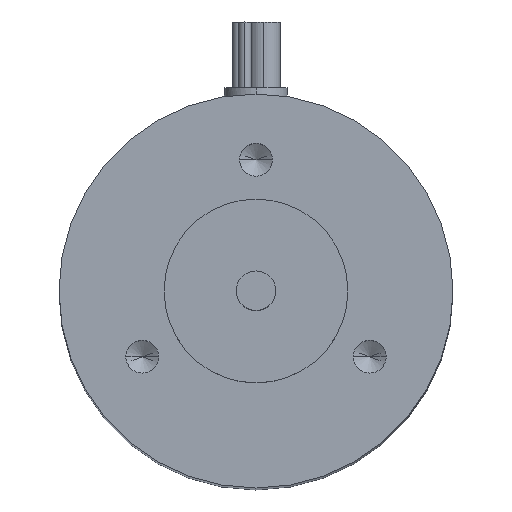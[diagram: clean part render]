
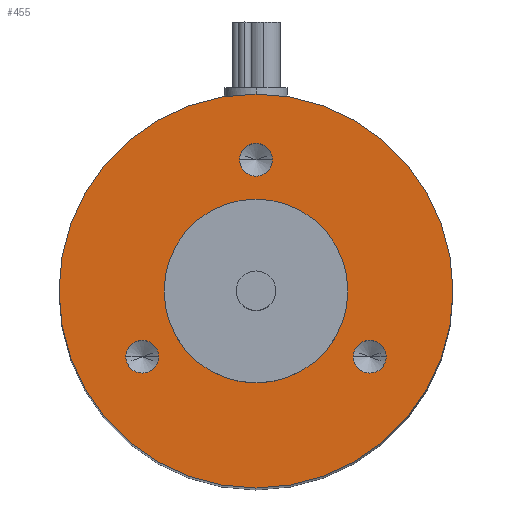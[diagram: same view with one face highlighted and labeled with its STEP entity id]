
A CAD part, top view. The second image highlights one B-rep face of the part: STEP entity #455.
In plain terms, the highlighted planar face has unit normal (0, 0, 1).
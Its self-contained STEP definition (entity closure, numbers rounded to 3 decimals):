
#57 = AXIS2_PLACEMENT_3D ( 'NONE', #776, #571, #1259 ) ;
#60 = CARTESIAN_POINT ( 'NONE',  ( -1.25, 10., 0. ) ) ;
#73 = DIRECTION ( 'NONE',  ( 1., 0., 0. ) ) ;
#82 = EDGE_CURVE ( 'NONE', #331, #463, #292, .T. ) ;
#93 = AXIS2_PLACEMENT_3D ( 'NONE', #1229, #161, #1241 ) ;
#101 = DIRECTION ( 'NONE',  ( 1., 0., 0. ) ) ;
#106 = CARTESIAN_POINT ( 'NONE',  ( 0., 10., 0. ) ) ;
#107 = AXIS2_PLACEMENT_3D ( 'NONE', #759, #364, #1142 ) ;
#128 = PLANE ( 'NONE',  #1070 ) ;
#161 = DIRECTION ( 'NONE',  ( 0., 0., 1. ) ) ;
#164 = DIRECTION ( 'NONE',  ( 1., 0., 0. ) ) ;
#172 = AXIS2_PLACEMENT_3D ( 'NONE', #1178, #1199, #695 ) ;
#203 = EDGE_CURVE ( 'NONE', #456, #427, #395, .T. ) ;
#211 = ORIENTED_EDGE ( 'NONE', *, *, #564, .F. ) ;
#223 = EDGE_CURVE ( 'NONE', #285, #757, #545, .T. ) ;
#234 = EDGE_LOOP ( 'NONE', ( #1134, #281 ) ) ;
#236 = CARTESIAN_POINT ( 'NONE',  ( 0., 0., 0. ) ) ;
#259 = VERTEX_POINT ( 'NONE', #1030 ) ;
#262 = CARTESIAN_POINT ( 'NONE',  ( 7., 0., 0. ) ) ;
#281 = ORIENTED_EDGE ( 'NONE', *, *, #203, .T. ) ;
#283 = FACE_BOUND ( 'NONE', #723, .T. ) ;
#285 = VERTEX_POINT ( 'NONE', #929 ) ;
#292 = CIRCLE ( 'NONE', #462, 1.25 ) ;
#298 = ORIENTED_EDGE ( 'NONE', *, *, #827, .F. ) ;
#323 = DIRECTION ( 'NONE',  ( 0., 0., 1. ) ) ;
#331 = VERTEX_POINT ( 'NONE', #60 ) ;
#364 = DIRECTION ( 'NONE',  ( 0., 0., 1. ) ) ;
#395 = CIRCLE ( 'NONE', #465, 15. ) ;
#419 = ORIENTED_EDGE ( 'NONE', *, *, #1227, .F. ) ;
#427 = VERTEX_POINT ( 'NONE', #1249 ) ;
#455 = ADVANCED_FACE ( 'NONE', ( #1158, #773, #283, #677, #1097 ), #128, .F. ) ;
#456 = VERTEX_POINT ( 'NONE', #697 ) ;
#462 = AXIS2_PLACEMENT_3D ( 'NONE', #836, #737, #164 ) ;
#463 = VERTEX_POINT ( 'NONE', #998 ) ;
#465 = AXIS2_PLACEMENT_3D ( 'NONE', #670, #1056, #73 ) ;
#474 = EDGE_CURVE ( 'NONE', #716, #259, #1256, .T. ) ;
#497 = CIRCLE ( 'NONE', #57, 1.25 ) ;
#521 = CARTESIAN_POINT ( 'NONE',  ( -8.66, -5., 0. ) ) ;
#545 = CIRCLE ( 'NONE', #93, 7. ) ;
#562 = CIRCLE ( 'NONE', #1049, 1.25 ) ;
#564 = EDGE_CURVE ( 'NONE', #463, #331, #1090, .T. ) ;
#566 = CARTESIAN_POINT ( 'NONE',  ( 8.66, -5., 0. ) ) ;
#571 = DIRECTION ( 'NONE',  ( 0., 0., 1. ) ) ;
#588 = CARTESIAN_POINT ( 'NONE',  ( 0., 7., 0. ) ) ;
#589 = VERTEX_POINT ( 'NONE', #1202 ) ;
#602 = DIRECTION ( 'NONE',  ( 1., 0., 0. ) ) ;
#609 = DIRECTION ( 'NONE',  ( -1., 0., 0. ) ) ;
#628 = EDGE_CURVE ( 'NONE', #427, #456, #1131, .T. ) ;
#670 = CARTESIAN_POINT ( 'NONE',  ( 0., 0., 0. ) ) ;
#677 = FACE_BOUND ( 'NONE', #1095, .T. ) ;
#682 = ORIENTED_EDGE ( 'NONE', *, *, #859, .F. ) ;
#695 = DIRECTION ( 'NONE',  ( 1., 0., 0. ) ) ;
#697 = CARTESIAN_POINT ( 'NONE',  ( -15., 0., 0. ) ) ;
#716 = VERTEX_POINT ( 'NONE', #826 ) ;
#723 = EDGE_LOOP ( 'NONE', ( #682, #1036 ) ) ;
#737 = DIRECTION ( 'NONE',  ( 0., 0., 1. ) ) ;
#757 = VERTEX_POINT ( 'NONE', #262 ) ;
#759 = CARTESIAN_POINT ( 'NONE',  ( 0., 0., 0. ) ) ;
#773 = FACE_BOUND ( 'NONE', #1261, .T. ) ;
#776 = CARTESIAN_POINT ( 'NONE',  ( -8.66, -5., 0. ) ) ;
#819 = DIRECTION ( 'NONE',  ( 0., 0., 1. ) ) ;
#826 = CARTESIAN_POINT ( 'NONE',  ( -9.91, -5., 0. ) ) ;
#827 = EDGE_CURVE ( 'NONE', #757, #285, #1169, .T. ) ;
#829 = AXIS2_PLACEMENT_3D ( 'NONE', #236, #819, #1025 ) ;
#836 = CARTESIAN_POINT ( 'NONE',  ( 0., 10., 0. ) ) ;
#843 = EDGE_CURVE ( 'NONE', #931, #589, #562, .T. ) ;
#858 = DIRECTION ( 'NONE',  ( 0., 0., 1. ) ) ;
#859 = EDGE_CURVE ( 'NONE', #259, #716, #497, .T. ) ;
#884 = AXIS2_PLACEMENT_3D ( 'NONE', #106, #323, #602 ) ;
#911 = DIRECTION ( 'NONE',  ( 0., 0., 1. ) ) ;
#929 = CARTESIAN_POINT ( 'NONE',  ( -7., 0., 0. ) ) ;
#931 = VERTEX_POINT ( 'NONE', #1096 ) ;
#951 = AXIS2_PLACEMENT_3D ( 'NONE', #521, #911, #101 ) ;
#983 = ORIENTED_EDGE ( 'NONE', *, *, #223, .F. ) ;
#998 = CARTESIAN_POINT ( 'NONE',  ( 1.25, 10., 0. ) ) ;
#1025 = DIRECTION ( 'NONE',  ( 1., 0., 0. ) ) ;
#1030 = CARTESIAN_POINT ( 'NONE',  ( -7.41, -5., 0. ) ) ;
#1036 = ORIENTED_EDGE ( 'NONE', *, *, #474, .F. ) ;
#1049 = AXIS2_PLACEMENT_3D ( 'NONE', #566, #858, #1136 ) ;
#1056 = DIRECTION ( 'NONE',  ( 0., 0., 1. ) ) ;
#1070 = AXIS2_PLACEMENT_3D ( 'NONE', #588, #1079, #609 ) ;
#1071 = ORIENTED_EDGE ( 'NONE', *, *, #843, .F. ) ;
#1079 = DIRECTION ( 'NONE',  ( 0., 0., -1. ) ) ;
#1090 = CIRCLE ( 'NONE', #884, 1.25 ) ;
#1095 = EDGE_LOOP ( 'NONE', ( #298, #983 ) ) ;
#1096 = CARTESIAN_POINT ( 'NONE',  ( 7.41, -5., 0. ) ) ;
#1097 = FACE_OUTER_BOUND ( 'NONE', #234, .T. ) ;
#1131 = CIRCLE ( 'NONE', #829, 15. ) ;
#1134 = ORIENTED_EDGE ( 'NONE', *, *, #628, .T. ) ;
#1136 = DIRECTION ( 'NONE',  ( 1., 0., 0. ) ) ;
#1142 = DIRECTION ( 'NONE',  ( 1., 0., 0. ) ) ;
#1158 = FACE_BOUND ( 'NONE', #1170, .T. ) ;
#1169 = CIRCLE ( 'NONE', #107, 7. ) ;
#1170 = EDGE_LOOP ( 'NONE', ( #419, #1071 ) ) ;
#1178 = CARTESIAN_POINT ( 'NONE',  ( 8.66, -5., 0. ) ) ;
#1199 = DIRECTION ( 'NONE',  ( 0., 0., 1. ) ) ;
#1200 = ORIENTED_EDGE ( 'NONE', *, *, #82, .F. ) ;
#1202 = CARTESIAN_POINT ( 'NONE',  ( 9.91, -5., 0. ) ) ;
#1227 = EDGE_CURVE ( 'NONE', #589, #931, #1253, .T. ) ;
#1229 = CARTESIAN_POINT ( 'NONE',  ( 0., 0., 0. ) ) ;
#1241 = DIRECTION ( 'NONE',  ( 1., 0., 0. ) ) ;
#1249 = CARTESIAN_POINT ( 'NONE',  ( 15., 0., 0. ) ) ;
#1253 = CIRCLE ( 'NONE', #172, 1.25 ) ;
#1256 = CIRCLE ( 'NONE', #951, 1.25 ) ;
#1259 = DIRECTION ( 'NONE',  ( 1., 0., 0. ) ) ;
#1261 = EDGE_LOOP ( 'NONE', ( #211, #1200 ) ) ;
